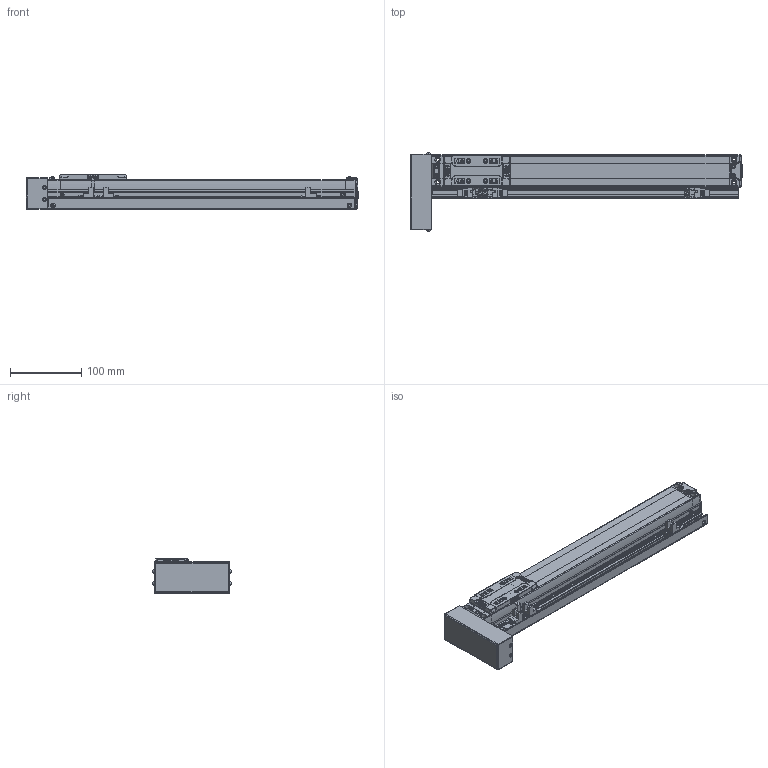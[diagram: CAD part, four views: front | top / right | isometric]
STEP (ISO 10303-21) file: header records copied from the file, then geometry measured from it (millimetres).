
FILE_DESCRIPTION(('STEP AP214'),'1');
FILE_NAME('Z:/Web/3D/SAN45/2013.ver/STP/SAN45ㅁㅁ-300PR+3SR.stp','2013-05-15T09:06:02',(' '),(' '),'Spatial InterOp 3D',' ',' ');
FILE_SCHEMA(('automotive_design'));
Length unit declared in the file: millimetre
Products named in the file (46): BODY-SAN45; REAR-SAN45; RRCV-SAN45; BHCS M3 x 6L; BHCS M3 X 6L; FRONT-SAN45; SHAFT; RN8 x 0.75; SSFX-SAN45; SLIDE-SAN45; SLCV-IM45; FHCS M3 x 6L; BTCV-SAN45; SRL-16x17-380L; EE-SX674; SBK-SX674-352; SDG-SA45; SCREW M3 x 5L
Bounding box: 466.15 x 110.13 x 50 mm (x, y, z)
Volume: 976233.1 mm3; surface area: 206449.9 mm2
Topology: 46 solids, 46 shells, 2336 faces, 6035 edges, 3873 vertices
Faces by surface type: plane 1288, cylinder 732, cone 150, sphere 84, bspline 44, torus 32, extrusion 6
Entity records: 94592 total; most frequent: CARTESIAN_POINT 16863, DIRECTION 12557, ORIENTED_EDGE 11922, EDGE_CURVE 5961, AXIS2_PLACEMENT_3D 4386, VERTEX_POINT 3873, VECTOR 3785, LINE 3779
